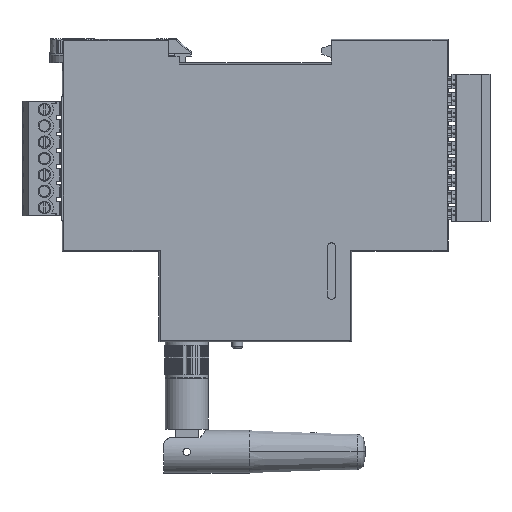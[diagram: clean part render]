
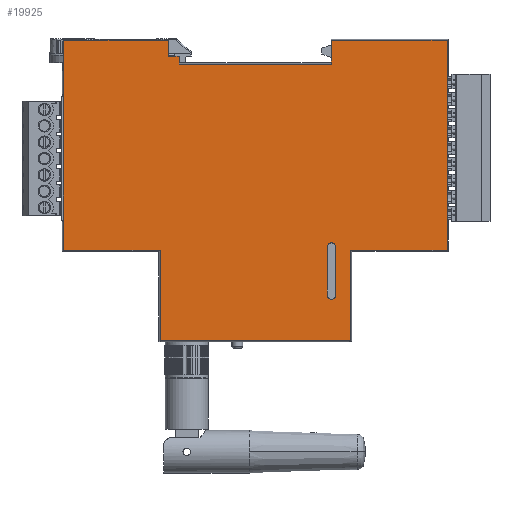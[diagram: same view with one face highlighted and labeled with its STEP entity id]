
A CAD part, front view. The second image highlights one B-rep face of the part: STEP entity #19925.
In plain terms, the highlighted planar face has unit normal (0, -1, 0).
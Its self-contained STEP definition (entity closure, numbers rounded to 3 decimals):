
#4236=DIRECTION('',(0.,0.,-1.));
#4237=VECTOR('',#4236,48.889);
#4238=CARTESIAN_POINT('',(-44.695,0.,
-0.305));
#4239=LINE('',#4238,#4237);
#4272=DIRECTION('',(0.,0.,1.));
#4273=VECTOR('',#4272,3.695);
#4274=CARTESIAN_POINT('',(-20.25,0.,-4.));
#4275=LINE('',#4274,#4273);
#4300=DIRECTION('',(-1.,0.,0.));
#4301=VECTOR('',#4300,2.5);
#4302=CARTESIAN_POINT('',(-17.75,0.,-4.));
#4303=LINE('',#4302,#4301);
#4312=DIRECTION('',(0.,0.,1.));
#4313=VECTOR('',#4312,5.5);
#4314=CARTESIAN_POINT('',(17.75,0.,-5.805));
#4315=LINE('',#4314,#4313);
#4316=DIRECTION('',(0.,0.,-1.));
#4317=VECTOR('',#4316,1.805);
#4318=CARTESIAN_POINT('',(-17.75,0.,-4.));
#4319=LINE('',#4318,#4317);
#4320=CARTESIAN_POINT('',(17.75,0.,-48.502));
#4321=DIRECTION('',(0.,-1.,0.));
#4322=DIRECTION('',(1.,0.,0.));
#4323=AXIS2_PLACEMENT_3D('',#4320,#4321,#4322);
#4325=CARTESIAN_POINT('',(17.75,0.,-59.662));
#4326=DIRECTION('',(0.,-1.,0.));
#4327=DIRECTION('',(-1.,0.,0.));
#4328=AXIS2_PLACEMENT_3D('',#4325,#4326,#4327);
#4362=DIRECTION('',(-1.,0.,0.));
#4363=VECTOR('',#4362,35.5);
#4364=CARTESIAN_POINT('',(17.75,0.,-5.805));
#4365=LINE('',#4364,#4363);
#4506=DIRECTION('',(1.,0.,0.));
#4507=VECTOR('',#4506,22.5);
#4508=CARTESIAN_POINT('',(-44.695,0.,
-49.195));
#4509=LINE('',#4508,#4507);
#4530=DIRECTION('',(0.,0.,-1.));
#4531=VECTOR('',#4530,21.105);
#4532=CARTESIAN_POINT('',(-22.195,0.,
-49.195));
#4533=LINE('',#4532,#4531);
#4706=DIRECTION('',(1.,0.,0.));
#4707=VECTOR('',#4706,44.389);
#4708=CARTESIAN_POINT('',(-22.195,0.,-70.3));
#4709=LINE('',#4708,#4707);
#4776=DIRECTION('',(0.,0.,1.));
#4777=VECTOR('',#4776,21.105);
#4778=CARTESIAN_POINT('',(22.195,0.,-70.3));
#4779=LINE('',#4778,#4777);
#4836=DIRECTION('',(0.,0.,1.));
#4837=VECTOR('',#4836,48.889);
#4838=CARTESIAN_POINT('',(44.695,0.,
-49.195));
#4839=LINE('',#4838,#4837);
#5630=DIRECTION('',(0.,0.,-1.));
#5631=VECTOR('',#5630,11.16);
#5632=CARTESIAN_POINT('',(18.75,0.,-48.502));
#5633=LINE('',#5632,#5631);
#5658=DIRECTION('',(0.,0.,1.));
#5659=VECTOR('',#5658,11.16);
#5660=CARTESIAN_POINT('',(16.75,0.,-59.662));
#5661=LINE('',#5660,#5659);
#10762=DIRECTION('',(-1.,0.,0.));
#10763=VECTOR('',#10762,26.945);
#10764=CARTESIAN_POINT('',(44.695,0.,
-0.305));
#10765=LINE('',#10764,#10763);
#10770=DIRECTION('',(1.,0.,0.));
#10771=VECTOR('',#10770,22.5);
#10772=CARTESIAN_POINT('',(22.195,0.,
-49.195));
#10773=LINE('',#10772,#10771);
#13710=DIRECTION('',(-1.,0.,0.));
#13711=VECTOR('',#13710,24.445);
#13712=CARTESIAN_POINT('',(-20.25,0.,-0.305));
#13713=LINE('',#13712,#13711);
#13976=CARTESIAN_POINT('',(17.75,0.,-5.805));
#13977=CARTESIAN_POINT('',(17.75,0.,-0.305));
#13978=VERTEX_POINT('',#13976);
#13979=VERTEX_POINT('',#13977);
#13980=CARTESIAN_POINT('',(44.695,0.,
-0.305));
#13981=VERTEX_POINT('',#13980);
#13982=CARTESIAN_POINT('',(44.695,0.,
-49.195));
#13983=VERTEX_POINT('',#13982);
#13984=CARTESIAN_POINT('',(22.195,0.,
-49.195));
#13985=VERTEX_POINT('',#13984);
#13986=CARTESIAN_POINT('',(22.195,0.,-70.3));
#13987=VERTEX_POINT('',#13986);
#13988=CARTESIAN_POINT('',(-22.195,0.,-70.3));
#13989=VERTEX_POINT('',#13988);
#13990=CARTESIAN_POINT('',(-22.195,0.,
-49.195));
#13991=VERTEX_POINT('',#13990);
#13992=CARTESIAN_POINT('',(-44.695,0.,
-49.195));
#13993=VERTEX_POINT('',#13992);
#13994=CARTESIAN_POINT('',(-44.695,0.,
-0.305));
#13995=VERTEX_POINT('',#13994);
#13996=CARTESIAN_POINT('',(-20.25,0.,-0.305));
#13997=VERTEX_POINT('',#13996);
#13998=CARTESIAN_POINT('',(-20.25,0.,-4.));
#13999=VERTEX_POINT('',#13998);
#14000=CARTESIAN_POINT('',(-17.75,0.,-4.));
#14001=VERTEX_POINT('',#14000);
#14002=CARTESIAN_POINT('',(-17.75,0.,-5.805));
#14003=VERTEX_POINT('',#14002);
#14004=CARTESIAN_POINT('',(18.75,0.,-48.502));
#14005=CARTESIAN_POINT('',(18.75,0.,-59.662));
#14006=VERTEX_POINT('',#14004);
#14007=VERTEX_POINT('',#14005);
#14008=CARTESIAN_POINT('',(16.75,0.,-48.502));
#14009=VERTEX_POINT('',#14008);
#14010=CARTESIAN_POINT('',(16.75,0.,-59.662));
#14011=VERTEX_POINT('',#14010);
#19884=CARTESIAN_POINT('',(0.,0.,0.));
#19885=DIRECTION('',(0.,1.,0.));
#19886=DIRECTION('',(1.,0.,0.));
#19887=AXIS2_PLACEMENT_3D('',#19884,#19885,#19886);
#19888=PLANE('',#19887);
#19890=ORIENTED_EDGE('',*,*,#19889,.T.);
#19892=ORIENTED_EDGE('',*,*,#19891,.F.);
#19894=ORIENTED_EDGE('',*,*,#19893,.F.);
#19896=ORIENTED_EDGE('',*,*,#19895,.F.);
#19898=ORIENTED_EDGE('',*,*,#19897,.F.);
#19900=ORIENTED_EDGE('',*,*,#19899,.F.);
#19902=ORIENTED_EDGE('',*,*,#19901,.F.);
#19904=ORIENTED_EDGE('',*,*,#19903,.F.);
#19905=ORIENTED_EDGE('',*,*,#19810,.F.);
#19907=ORIENTED_EDGE('',*,*,#19906,.F.);
#19908=ORIENTED_EDGE('',*,*,#19857,.F.);
#19909=ORIENTED_EDGE('',*,*,#19876,.F.);
#19910=ORIENTED_EDGE('',*,*,#19718,.T.);
#19912=ORIENTED_EDGE('',*,*,#19911,.F.);
#19913=EDGE_LOOP('',(#19890,#19892,#19894,#19896,#19898,#19900,#19902,#19904,
#19905,#19907,#19908,#19909,#19910,#19912));
#19914=FACE_OUTER_BOUND('',#19913,.F.);
#19916=ORIENTED_EDGE('',*,*,#19915,.F.);
#19918=ORIENTED_EDGE('',*,*,#19917,.T.);
#19920=ORIENTED_EDGE('',*,*,#19919,.F.);
#19922=ORIENTED_EDGE('',*,*,#19921,.T.);
#19923=EDGE_LOOP('',(#19916,#19918,#19920,#19922));
#19924=FACE_BOUND('',#19923,.F.);
#4324=CIRCLE('',#4323,1.);
#4329=CIRCLE('',#4328,1.);
#19718=EDGE_CURVE('',#14001,#14003,#4319,.T.);
#19810=EDGE_CURVE('',#13995,#13993,#4239,.T.);
#19857=EDGE_CURVE('',#13999,#13997,#4275,.T.);
#19876=EDGE_CURVE('',#14001,#13999,#4303,.T.);
#19889=EDGE_CURVE('',#13978,#13979,#4315,.T.);
#19891=EDGE_CURVE('',#13981,#13979,#10765,.T.);
#19893=EDGE_CURVE('',#13983,#13981,#4839,.T.);
#19895=EDGE_CURVE('',#13985,#13983,#10773,.T.);
#19897=EDGE_CURVE('',#13987,#13985,#4779,.T.);
#19899=EDGE_CURVE('',#13989,#13987,#4709,.T.);
#19901=EDGE_CURVE('',#13991,#13989,#4533,.T.);
#19903=EDGE_CURVE('',#13993,#13991,#4509,.T.);
#19906=EDGE_CURVE('',#13997,#13995,#13713,.T.);
#19911=EDGE_CURVE('',#13978,#14003,#4365,.T.);
#19915=EDGE_CURVE('',#14006,#14007,#5633,.T.);
#19917=EDGE_CURVE('',#14006,#14009,#4324,.T.);
#19919=EDGE_CURVE('',#14011,#14009,#5661,.T.);
#19921=EDGE_CURVE('',#14011,#14007,#4329,.T.);
#19925=ADVANCED_FACE('',(#19914,#19924),#19888,.F.);
